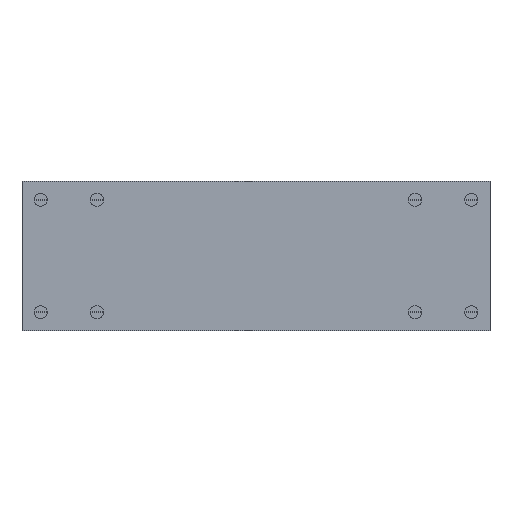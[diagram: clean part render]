
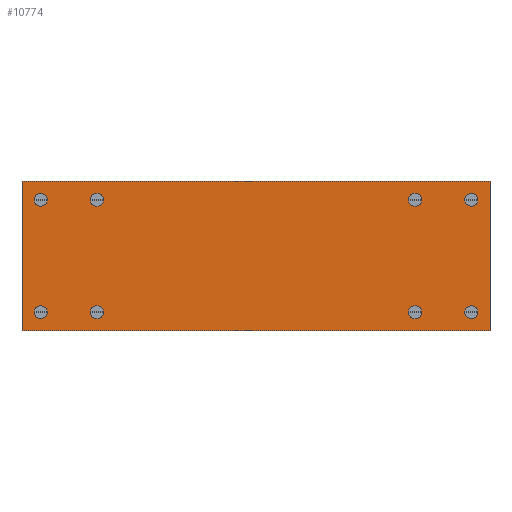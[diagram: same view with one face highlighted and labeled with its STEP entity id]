
A CAD part, front view. The second image highlights one B-rep face of the part: STEP entity #10774.
In plain terms, the highlighted planar face has unit normal (0, -1, 0).
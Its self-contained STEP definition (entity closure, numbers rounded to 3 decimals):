
#384=CIRCLE('',#11420,1.75);
#385=CIRCLE('',#11421,1.75);
#386=CIRCLE('',#11422,1.75);
#387=CIRCLE('',#11423,1.75);
#388=CIRCLE('',#11424,1.75);
#389=CIRCLE('',#11425,1.75);
#390=CIRCLE('',#11426,1.75);
#391=CIRCLE('',#11427,1.75);
#1140=ORIENTED_EDGE('',*,*,#4397,.F.);
#1141=ORIENTED_EDGE('',*,*,#4398,.F.);
#1142=ORIENTED_EDGE('',*,*,#4399,.F.);
#1143=ORIENTED_EDGE('',*,*,#4400,.F.);
#1144=ORIENTED_EDGE('',*,*,#4401,.T.);
#1145=ORIENTED_EDGE('',*,*,#4402,.F.);
#1146=ORIENTED_EDGE('',*,*,#4403,.F.);
#1147=ORIENTED_EDGE('',*,*,#4404,.F.);
#1148=ORIENTED_EDGE('',*,*,#4348,.T.);
#1149=ORIENTED_EDGE('',*,*,#4405,.F.);
#1150=ORIENTED_EDGE('',*,*,#4406,.F.);
#1151=ORIENTED_EDGE('',*,*,#4395,.T.);
#4348=EDGE_CURVE('',#5983,#5982,#7098,.T.);
#4395=EDGE_CURVE('',#6020,#5983,#7141,.T.);
#4397=EDGE_CURVE('',#6021,#6021,#384,.T.);
#4398=EDGE_CURVE('',#6022,#6022,#385,.T.);
#4399=EDGE_CURVE('',#6023,#6023,#386,.T.);
#4400=EDGE_CURVE('',#6024,#6024,#387,.T.);
#4401=EDGE_CURVE('',#6025,#6025,#388,.T.);
#4402=EDGE_CURVE('',#6026,#6026,#389,.T.);
#4403=EDGE_CURVE('',#6027,#6027,#390,.T.);
#4404=EDGE_CURVE('',#6028,#6028,#391,.T.);
#4405=EDGE_CURVE('',#6029,#5982,#7143,.T.);
#4406=EDGE_CURVE('',#6020,#6029,#7144,.T.);
#5982=VERTEX_POINT('',#16296);
#5983=VERTEX_POINT('',#16298);
#6020=VERTEX_POINT('',#16389);
#6021=VERTEX_POINT('',#16393);
#6022=VERTEX_POINT('',#16395);
#6023=VERTEX_POINT('',#16397);
#6024=VERTEX_POINT('',#16399);
#6025=VERTEX_POINT('',#16401);
#6026=VERTEX_POINT('',#16403);
#6027=VERTEX_POINT('',#16405);
#6028=VERTEX_POINT('',#16407);
#6029=VERTEX_POINT('',#16409);
#7098=LINE('',#16297,#8060);
#7141=LINE('',#16388,#8103);
#7143=LINE('',#16408,#8105);
#7144=LINE('',#16410,#8106);
#8060=VECTOR('',#12731,1000.);
#8103=VECTOR('',#12796,1000.);
#8105=VECTOR('',#12816,1000.);
#8106=VECTOR('',#12817,1000.);
#9009=EDGE_LOOP('',(#1140));
#9010=EDGE_LOOP('',(#1141));
#9011=EDGE_LOOP('',(#1142));
#9012=EDGE_LOOP('',(#1143));
#9013=EDGE_LOOP('',(#1144));
#9014=EDGE_LOOP('',(#1145));
#9015=EDGE_LOOP('',(#1146));
#9016=EDGE_LOOP('',(#1147));
#9017=EDGE_LOOP('',(#1148,#1149,#1150,#1151));
#9761=FACE_BOUND('',#9009,.T.);
#9762=FACE_BOUND('',#9010,.T.);
#9763=FACE_BOUND('',#9011,.T.);
#9764=FACE_BOUND('',#9012,.T.);
#9765=FACE_BOUND('',#9013,.T.);
#9766=FACE_BOUND('',#9014,.T.);
#9767=FACE_BOUND('',#9015,.T.);
#9768=FACE_BOUND('',#9016,.T.);
#9769=FACE_BOUND('',#9017,.T.);
#10509=PLANE('',#11419);
#10774=ADVANCED_FACE('',(#9761,#9762,#9763,#9764,#9765,#9766,#9767,#9768,
#9769),#10509,.F.);
#11419=AXIS2_PLACEMENT_3D('',#16391,#12798,#12799);
#11420=AXIS2_PLACEMENT_3D('',#16392,#12800,#12801);
#11421=AXIS2_PLACEMENT_3D('',#16394,#12802,#12803);
#11422=AXIS2_PLACEMENT_3D('',#16396,#12804,#12805);
#11423=AXIS2_PLACEMENT_3D('',#16398,#12806,#12807);
#11424=AXIS2_PLACEMENT_3D('',#16400,#12808,#12809);
#11425=AXIS2_PLACEMENT_3D('',#16402,#12810,#12811);
#11426=AXIS2_PLACEMENT_3D('',#16404,#12812,#12813);
#11427=AXIS2_PLACEMENT_3D('',#16406,#12814,#12815);
#12731=DIRECTION('',(0.,0.,-1.));
#12796=DIRECTION('',(-1.,0.,0.));
#12798=DIRECTION('',(0.,1.,0.));
#12799=DIRECTION('',(0.,0.,1.));
#12800=DIRECTION('',(0.,-1.,0.));
#12801=DIRECTION('',(0.,0.,-1.));
#12802=DIRECTION('',(0.,-1.,0.));
#12803=DIRECTION('',(0.,0.,-1.));
#12804=DIRECTION('',(0.,-1.,0.));
#12805=DIRECTION('',(0.,0.,-1.));
#12806=DIRECTION('',(0.,-1.,0.));
#12807=DIRECTION('',(0.,0.,-1.));
#12808=DIRECTION('',(0.,1.,0.));
#12809=DIRECTION('',(0.,0.,1.));
#12810=DIRECTION('',(0.,-1.,0.));
#12811=DIRECTION('',(0.,0.,-1.));
#12812=DIRECTION('',(0.,-1.,0.));
#12813=DIRECTION('',(0.,0.,-1.));
#12814=DIRECTION('',(0.,-1.,0.));
#12815=DIRECTION('',(0.,0.,-1.));
#12816=DIRECTION('',(-1.,0.,0.));
#12817=DIRECTION('',(0.,0.,-1.));
#16296=CARTESIAN_POINT('',(0.,0.,-20.));
#16297=CARTESIAN_POINT('',(0.,0.,20.));
#16298=CARTESIAN_POINT('',(0.,0.,20.));
#16388=CARTESIAN_POINT('',(125.,0.,20.));
#16389=CARTESIAN_POINT('',(125.,0.,20.));
#16391=CARTESIAN_POINT('',(125.,0.,20.));
#16392=CARTESIAN_POINT('',(105.,0.,15.));
#16393=CARTESIAN_POINT('',(105.,0.,13.25));
#16394=CARTESIAN_POINT('',(105.,0.,-15.));
#16395=CARTESIAN_POINT('',(105.,0.,-16.75));
#16396=CARTESIAN_POINT('',(20.,0.,15.));
#16397=CARTESIAN_POINT('',(20.,0.,13.25));
#16398=CARTESIAN_POINT('',(20.,0.,-15.));
#16399=CARTESIAN_POINT('',(20.,0.,-16.75));
#16400=CARTESIAN_POINT('',(120.,0.,15.));
#16401=CARTESIAN_POINT('',(120.,0.,16.75));
#16402=CARTESIAN_POINT('',(120.,0.,-15.));
#16403=CARTESIAN_POINT('',(120.,0.,-16.75));
#16404=CARTESIAN_POINT('',(5.,0.,-15.));
#16405=CARTESIAN_POINT('',(5.,0.,-16.75));
#16406=CARTESIAN_POINT('',(5.,0.,15.));
#16407=CARTESIAN_POINT('',(5.,0.,13.25));
#16408=CARTESIAN_POINT('',(125.,0.,-20.));
#16409=CARTESIAN_POINT('',(125.,0.,-20.));
#16410=CARTESIAN_POINT('',(125.,0.,20.));
